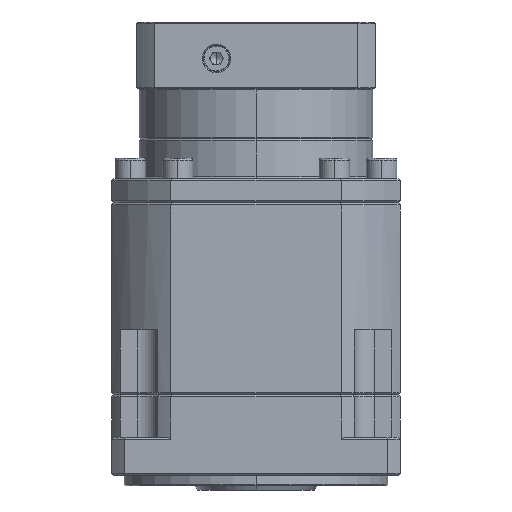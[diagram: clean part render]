
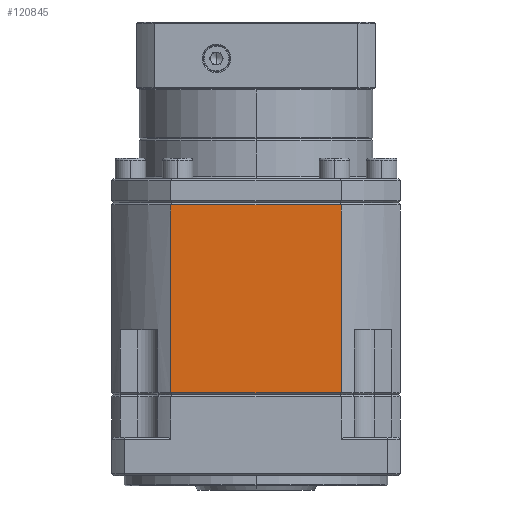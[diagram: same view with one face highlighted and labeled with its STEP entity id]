
A CAD part, left-side view. The second image highlights one B-rep face of the part: STEP entity #120845.
In plain terms, the highlighted planar face has unit normal (-1, 0, 0).
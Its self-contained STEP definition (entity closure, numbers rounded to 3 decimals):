
#2338 = CARTESIAN_POINT ( 'NONE',  ( -37.748, 124.12, -67.773 ) ) ;
#3726 = EDGE_CURVE ( 'NONE', #120107, #88970, #11946, .T. ) ;
#5811 = CARTESIAN_POINT ( 'NONE',  ( -37.748, 53.12, -66.773 ) ) ;
#11946 = LINE ( 'NONE', #81332, #101838 ) ;
#14614 = LINE ( 'NONE', #30039, #66099 ) ;
#21901 = AXIS2_PLACEMENT_3D ( 'NONE', #5811, #90266, #53254 ) ;
#22592 = EDGE_CURVE ( 'NONE', #45326, #28352, #38196, .T. ) ;
#26186 = DIRECTION ( 'NONE',  ( 0., 0., -1. ) ) ;
#28352 = VERTEX_POINT ( 'NONE', #37798 ) ;
#29847 = VECTOR ( 'NONE', #77753, 1000. ) ;
#30039 = CARTESIAN_POINT ( 'NONE',  ( -37.748, 53.12, -160.273 ) ) ;
#31034 = CARTESIAN_POINT ( 'NONE',  ( -37.748, 166.135, -66.773 ) ) ;
#32319 = VECTOR ( 'NONE', #96905, 1000. ) ;
#35122 = CARTESIAN_POINT ( 'NONE',  ( -37.748, 166.135, -160.273 ) ) ;
#36328 = ORIENTED_EDGE ( 'NONE', *, *, #22592, .F. ) ;
#37798 = CARTESIAN_POINT ( 'NONE',  ( -37.748, 166.135, -67.773 ) ) ;
#38196 = LINE ( 'NONE', #31034, #32319 ) ;
#38512 = EDGE_CURVE ( 'NONE', #88970, #45326, #14614, .T. ) ;
#40117 = EDGE_LOOP ( 'NONE', ( #36328, #87499, #70109, #77590 ) ) ;
#41723 = CARTESIAN_POINT ( 'NONE',  ( -37.748, 82.105, -160.273 ) ) ;
#45326 = VERTEX_POINT ( 'NONE', #35122 ) ;
#53254 = DIRECTION ( 'NONE',  ( 0., 0., -1. ) ) ;
#66099 = VECTOR ( 'NONE', #95909, 1000. ) ;
#66336 = EDGE_CURVE ( 'NONE', #28352, #120107, #121361, .T. ) ;
#70109 = ORIENTED_EDGE ( 'NONE', *, *, #3726, .F. ) ;
#77590 = ORIENTED_EDGE ( 'NONE', *, *, #66336, .F. ) ;
#77753 = DIRECTION ( 'NONE',  ( 0., -1., 0. ) ) ;
#79413 = CARTESIAN_POINT ( 'NONE',  ( -37.748, 82.105, -67.773 ) ) ;
#81332 = CARTESIAN_POINT ( 'NONE',  ( -37.748, 82.105, -66.773 ) ) ;
#87499 = ORIENTED_EDGE ( 'NONE', *, *, #38512, .F. ) ;
#88970 = VERTEX_POINT ( 'NONE', #41723 ) ;
#90266 = DIRECTION ( 'NONE',  ( 1., 0., 0. ) ) ;
#95909 = DIRECTION ( 'NONE',  ( 0., 1., 0. ) ) ;
#96905 = DIRECTION ( 'NONE',  ( 0., 0., 1. ) ) ;
#99337 = PLANE ( 'NONE',  #21901 ) ;
#101838 = VECTOR ( 'NONE', #26186, 1000. ) ;
#116794 = FACE_OUTER_BOUND ( 'NONE', #40117, .T. ) ;
#120107 = VERTEX_POINT ( 'NONE', #79413 ) ;
#120845 = ADVANCED_FACE ( 'NONE', ( #116794 ), #99337, .F. ) ;
#121361 = LINE ( 'NONE', #2338, #29847 ) ;
